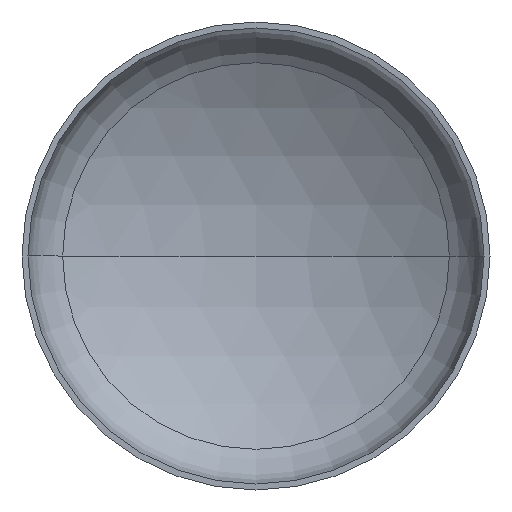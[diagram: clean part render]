
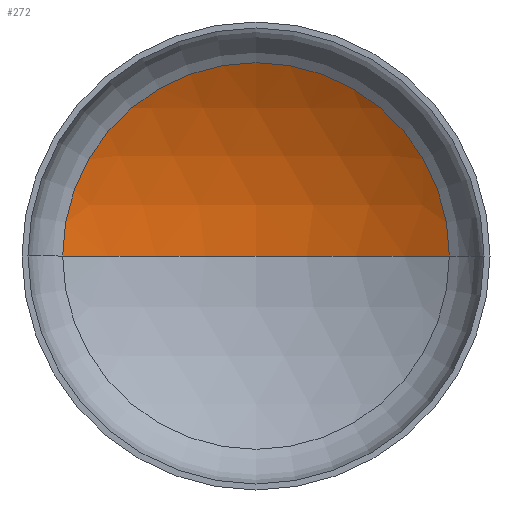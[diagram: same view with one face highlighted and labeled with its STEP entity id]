
A CAD part, front view. The second image highlights one B-rep face of the part: STEP entity #272.
In plain terms, the highlighted spherical face has radius 2560 mm.
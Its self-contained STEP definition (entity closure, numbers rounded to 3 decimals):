
#14 = EDGE_LOOP ( 'NONE', ( #139, #125, #92 ) ) ;
#17 = AXIS2_PLACEMENT_3D ( 'NONE', #43, #181, #45 ) ;
#38 = CIRCLE ( 'NONE', #50, 2560. ) ;
#41 = AXIS2_PLACEMENT_3D ( 'NONE', #165, #333, #188 ) ;
#43 = CARTESIAN_POINT ( 'NONE',  ( 0., -1642.608, 0. ) ) ;
#45 = DIRECTION ( 'NONE',  ( -1., 0., 0. ) ) ;
#48 = VERTEX_POINT ( 'NONE', #301 ) ;
#50 = AXIS2_PLACEMENT_3D ( 'NONE', #201, #385, #245 ) ;
#54 = AXIS2_PLACEMENT_3D ( 'NONE', #216, #213, #214 ) ;
#92 = ORIENTED_EDGE ( 'NONE', *, *, #100, .T. ) ;
#100 = EDGE_CURVE ( 'NONE', #48, #108, #180, .T. ) ;
#102 = EDGE_CURVE ( 'NONE', #323, #48, #38, .T. ) ;
#108 = VERTEX_POINT ( 'NONE', #198 ) ;
#125 = ORIENTED_EDGE ( 'NONE', *, *, #102, .T. ) ;
#132 = EDGE_CURVE ( 'NONE', #323, #108, #173, .T. ) ;
#139 = ORIENTED_EDGE ( 'NONE', *, *, #132, .F. ) ;
#165 = CARTESIAN_POINT ( 'NONE',  ( 0., -1642.608, 0. ) ) ;
#173 = CIRCLE ( 'NONE', #41, 2560. ) ;
#180 = CIRCLE ( 'NONE', #54, 1322.048 ) ;
#181 = DIRECTION ( 'NONE',  ( 0., 0., -1. ) ) ;
#188 = DIRECTION ( 'NONE',  ( 1., 0., 0. ) ) ;
#198 = CARTESIAN_POINT ( 'NONE',  ( -1322.048, 549.603, 0. ) ) ;
#201 = CARTESIAN_POINT ( 'NONE',  ( 0., -1642.608, 0. ) ) ;
#213 = DIRECTION ( 'NONE',  ( 0., -1., 0. ) ) ;
#214 = DIRECTION ( 'NONE',  ( 1., 0., 0. ) ) ;
#216 = CARTESIAN_POINT ( 'NONE',  ( 0., 549.603, 0. ) ) ;
#245 = DIRECTION ( 'NONE',  ( -1., 0., 0. ) ) ;
#272 = ADVANCED_FACE ( 'NONE', ( #347 ), #352, .F. ) ;
#301 = CARTESIAN_POINT ( 'NONE',  ( 1322.048, 549.603, 0. ) ) ;
#323 = VERTEX_POINT ( 'NONE', #400 ) ;
#333 = DIRECTION ( 'NONE',  ( 0., 0., 1. ) ) ;
#347 = FACE_OUTER_BOUND ( 'NONE', #14, .T. ) ;
#352 = SPHERICAL_SURFACE ( 'NONE', #17, 2560. ) ;
#385 = DIRECTION ( 'NONE',  ( 0., 0., -1. ) ) ;
#400 = CARTESIAN_POINT ( 'NONE',  ( 0., 917.392, 0. ) ) ;
